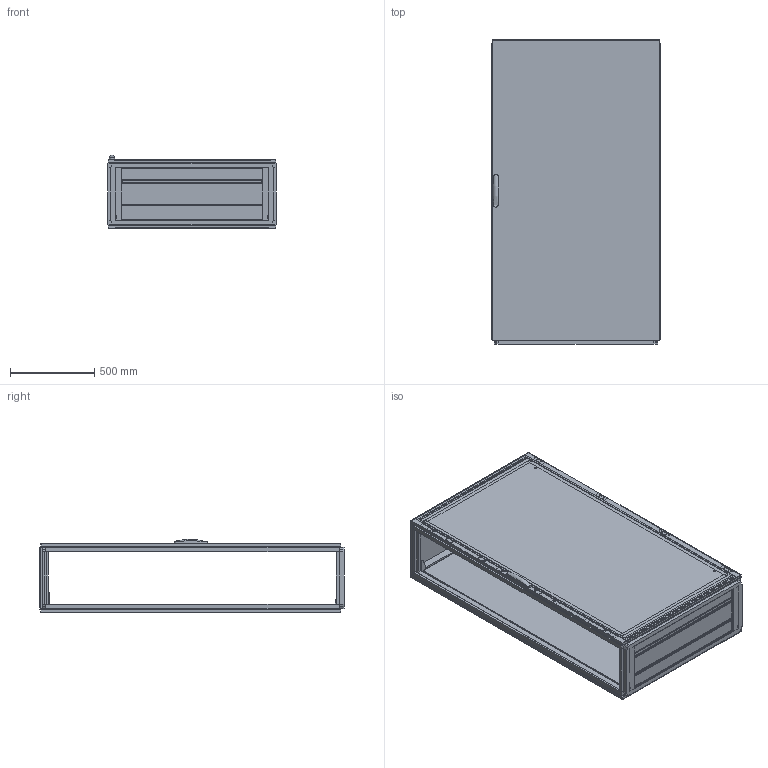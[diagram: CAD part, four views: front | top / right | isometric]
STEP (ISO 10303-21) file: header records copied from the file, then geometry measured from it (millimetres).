
FILE_DESCRIPTION(/* description */ ('STEP AP203'),/* implementation_level */ '2;1');
FILE_NAME(/* name */ 'MCS18104R5(0R)',/* time_stamp */ '2024-03-01T09:51:07+01:00',/* author */ ('License CC BY-ND 4.0'),/* organization */ ('CADENAS'),/* preprocessor_version */ 'ST-DEVELOPER v19.3',/* originating_system */ 'PARTsolutions',/* authorisation */ ' ');
FILE_SCHEMA (('CONFIG_CONTROL_DESIGN'));
Length unit declared in the file: millimetre
Products named in the file (19): MCS18104R5(0R); MCS18104R5_Frame; CRPK10(0)_Rear Panel Mounting Kit; CRP1810R5(0)_Rear Panel; CRPK10(0)_Rear Panel Bracket; DNMK01(0)_Rod catches; DNMK01(0)_Hinge; DN1810R5(0)_Plain door; LSSDXXXX(0)_Lock; LSSD1800(0)_Espagnolette Top; LSSD1800(0)_Espagnolette Bottom; CCR104R5(0)_Roof plate; MPA06(0)_Mounting Plate Brackets 1; MP1810(0)_P1; MPA06(0)_Mounting Plate Brackets 2; MPA06(0)_Mounting Plate Brackets 3; MPA06(0)_Mounting Plate Brackets 4; CBP100(0)_Bottom Plate 1; CBP100(0)_Bottom Plate 2
Assembly tree (33 placements, depth 2):
  MCS18104R5(0R)
    MCS18104R5_Frame
    CRPK10(0)_Rear Panel Mounting Kit  x8
    CRP1810R5(0)_Rear Panel
    CRPK10(0)_Rear Panel Bracket  x2
    DNMK01(0)_Rod catches  x4
    DNMK01(0)_Hinge  x4
    DN1810R5(0)_Plain door
    LSSDXXXX(0)_Lock
    LSSD1800(0)_Espagnolette Top
    LSSD1800(0)_Espagnolette Bottom
    CCR104R5(0)_Roof plate
    MPA06(0)_Mounting Plate Brackets 1
    MP1810(0)_P1
    MPA06(0)_Mounting Plate Brackets 2
    MPA06(0)_Mounting Plate Brackets 3
    MPA06(0)_Mounting Plate Brackets 4
    CBP100(0)_Bottom Plate 1  x2
    CBP100(0)_Bottom Plate 2
Bounding box: 999 x 1806 x 434.85 mm (x, y, z)
Volume: 30985854.1 mm3; surface area: 15322031.4 mm2
Topology: 33 solids, 33 shells, 1495 faces, 3965 edges, 2615 vertices
Faces by surface type: plane 1304, cylinder 128, cone 62, torus 1
Full cylindrical faces by diameter (mm): 2.55 x2, 5 x22, 5.2 x2, 6 x6, 7 x6, 7.4 x4, 8 x20, 9 x2, 10 x12, 13 x2, 14 x4
Entity records: 34918 total; most frequent: CARTESIAN_POINT 6067, ORIENTED_EDGE 5706, DIRECTION 5402, EDGE_CURVE 2853, LINE 2554, VECTOR 2554, VERTEX_POINT 1939, AXIS2_PLACEMENT_3D 1424
